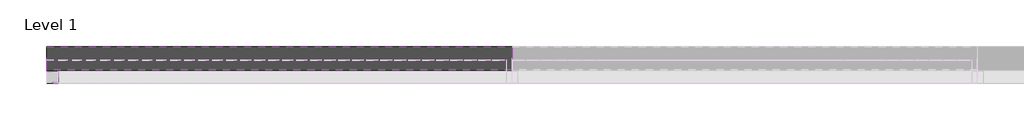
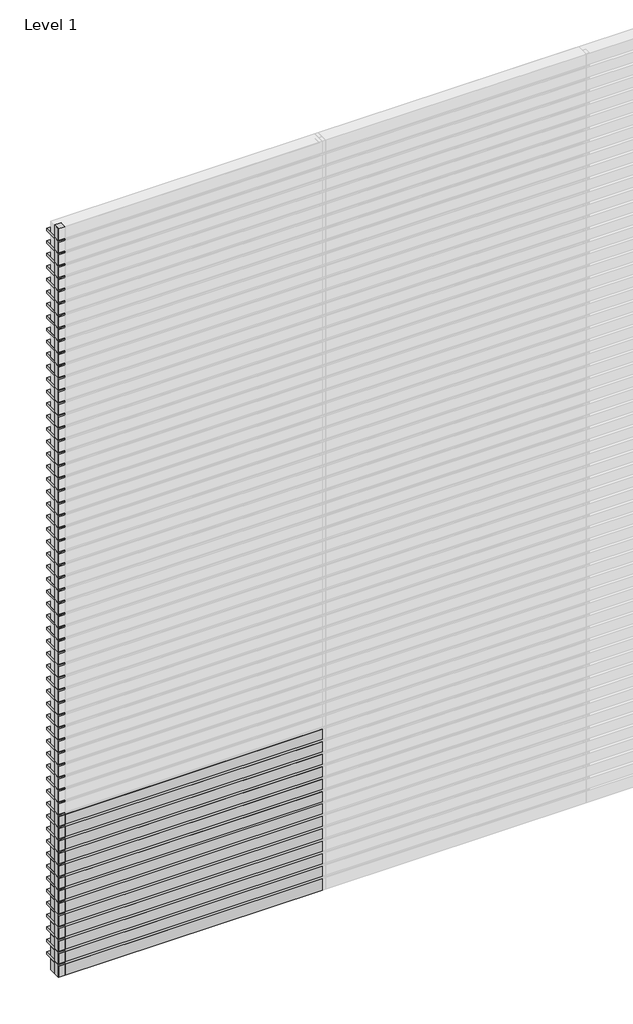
# One storey, part 1 of 6: 119 members, 13 plates.
"""IFC4 building model written with IfcOpenShell, lengths in millimetres."""

from ifc_helpers import new_model, si_unit, origin, place, context, project, spatial, transform, mapped, element, save
from components import rectangular_mullion_30cdfca6, rectangular_mullion_cddbc660, empty_system_panel_empty_51cbbd14, empty_system_panel_empty_86242385

model = new_model("IFC4")

# Units and contexts
model_context = context("Model", 3, world=origin())
ifc_project = project(units=[si_unit("LENGTHUNIT", "METRE", prefix="MILLI")], contexts=[model_context])

# Site, building, storey
site = spatial("IfcSite", under=ifc_project)
building = spatial("IfcBuilding", under=site)
storey = spatial("IfcBuildingStorey", under=building, Name="Level 1", Elevation=0.0)

# Members
placement = place(None, origin())
rectangular_mullion_shape = rectangular_mullion_30cdfca6(model_context)
element("IfcMember", 1, ObjectType="Rectangular Mullion : RSen_21_CWM_blade - cubic 100 - 0°_gen_duco projects", at=placement, inside=storey, context=model_context, shape_type="MappedRepresentation", body=[
    mapped(rectangular_mullion_shape, transform((0.0, 3000.0, 100.0), x_axis=(0.0, 0.0, 1.0), y_axis=(0.0, 1.0, 0.0), z_axis=(-1.0, 0.0, 0.0))),
])
element("IfcMember", 2, ObjectType="Rectangular Mullion : RSen_21_CWM_blade - cubic 100 - 0°_gen_duco projects", at=placement, inside=storey, context=model_context, shape_type="MappedRepresentation", body=[
    mapped(rectangular_mullion_shape, transform((0.0, 3000.0, 200.0), x_axis=(0.0, 0.0, 1.0), y_axis=(0.0, 1.0, 0.0), z_axis=(-1.0, 0.0, 0.0))),
])
element("IfcMember", 3, ObjectType="Rectangular Mullion : RSen_21_CWM_blade - cubic 100 - 0°_gen_duco projects", at=placement, inside=storey, context=model_context, shape_type="MappedRepresentation", body=[
    mapped(rectangular_mullion_shape, transform((0.0, 3000.0, 300.0), x_axis=(0.0, 0.0, 1.0), y_axis=(0.0, 1.0, 0.0), z_axis=(-1.0, 0.0, 0.0))),
])
element("IfcMember", 4, ObjectType="Rectangular Mullion : RSen_21_CWM_blade - cubic 100 - 0°_gen_duco projects", at=placement, inside=storey, context=model_context, shape_type="MappedRepresentation", body=[
    mapped(rectangular_mullion_shape, transform((0.0, 3000.0, 400.0), x_axis=(0.0, 0.0, 1.0), y_axis=(0.0, 1.0, 0.0), z_axis=(-1.0, 0.0, 0.0))),
])
element("IfcMember", 5, ObjectType="Rectangular Mullion : RSen_21_CWM_blade - cubic 100 - 0°_gen_duco projects", at=placement, inside=storey, context=model_context, shape_type="MappedRepresentation", body=[
    mapped(rectangular_mullion_shape, transform((0.0, 3000.0, 500.0), x_axis=(0.0, 0.0, 1.0), y_axis=(0.0, 1.0, 0.0), z_axis=(-1.0, 0.0, 0.0))),
])
element("IfcMember", 6, ObjectType="Rectangular Mullion : RSen_21_CWM_blade - cubic 100 - 0°_gen_duco projects", at=placement, inside=storey, context=model_context, shape_type="MappedRepresentation", body=[
    mapped(rectangular_mullion_shape, transform((0.0, 3000.0, 600.0), x_axis=(0.0, 0.0, 1.0), y_axis=(0.0, 1.0, 0.0), z_axis=(-1.0, 0.0, 0.0))),
])
element("IfcMember", 7, ObjectType="Rectangular Mullion : RSen_21_CWM_blade - cubic 100 - 0°_gen_duco projects", at=placement, inside=storey, context=model_context, shape_type="MappedRepresentation", body=[
    mapped(rectangular_mullion_shape, transform((0.0, 3000.0, 700.0), x_axis=(0.0, 0.0, 1.0), y_axis=(0.0, 1.0, 0.0), z_axis=(-1.0, 0.0, 0.0))),
])
element("IfcMember", 8, ObjectType="Rectangular Mullion : RSen_21_CWM_blade - cubic 100 - 0°_gen_duco projects", at=placement, inside=storey, context=model_context, shape_type="MappedRepresentation", body=[
    mapped(rectangular_mullion_shape, transform((0.0, 3000.0, 800.0), x_axis=(0.0, 0.0, 1.0), y_axis=(0.0, 1.0, 0.0), z_axis=(-1.0, 0.0, 0.0))),
])
element("IfcMember", 9, ObjectType="Rectangular Mullion : RSen_21_CWM_blade - cubic 100 - 0°_gen_duco projects", at=placement, inside=storey, context=model_context, shape_type="MappedRepresentation", body=[
    mapped(rectangular_mullion_shape, transform((0.0, 3000.0, 900.0), x_axis=(0.0, 0.0, 1.0), y_axis=(0.0, 1.0, 0.0), z_axis=(-1.0, 0.0, 0.0))),
])
element("IfcMember", 10, ObjectType="Rectangular Mullion : RSen_21_CWM_blade - cubic 100 - 0°_gen_duco projects", at=placement, inside=storey, context=model_context, shape_type="MappedRepresentation", body=[
    mapped(rectangular_mullion_shape, transform((0.0, 3000.0, 1000.0), x_axis=(0.0, 0.0, 1.0), y_axis=(0.0, 1.0, 0.0), z_axis=(-1.0, 0.0, 0.0))),
])
element("IfcMember", 11, ObjectType="Rectangular Mullion : RSen_21_CWM_blade - cubic 100 - 0°_gen_duco projects", at=placement, inside=storey, context=model_context, shape_type="MappedRepresentation", body=[
    mapped(rectangular_mullion_shape, transform((0.0, 3000.0, 1100.0), x_axis=(0.0, 0.0, 1.0), y_axis=(0.0, 1.0, 0.0), z_axis=(-1.0, 0.0, 0.0))),
])
element("IfcMember", 12, ObjectType="Rectangular Mullion : RSen_21_CWM_blade - cubic 100 - 0°_gen_duco projects", at=placement, inside=storey, context=model_context, shape_type="MappedRepresentation", body=[
    mapped(rectangular_mullion_shape, transform((0.0, 3000.0, 1200.0), x_axis=(0.0, 0.0, 1.0), y_axis=(0.0, 1.0, 0.0), z_axis=(-1.0, 0.0, 0.0))),
])
element("IfcMember", 13, ObjectType="Rectangular Mullion : RSen_21_CWM_blade - cubic 100 - 0°_gen_duco projects", at=placement, inside=storey, context=model_context, shape_type="MappedRepresentation", body=[
    mapped(rectangular_mullion_shape, transform((0.0, 3000.0, 1300.0), x_axis=(0.0, 0.0, 1.0), y_axis=(0.0, 1.0, 0.0), z_axis=(-1.0, 0.0, 0.0))),
])
element("IfcMember", 14, ObjectType="Rectangular Mullion : RSen_21_CWM_blade - cubic 100 - 0°_gen_duco projects", at=placement, inside=storey, context=model_context, shape_type="MappedRepresentation", body=[
    mapped(rectangular_mullion_shape, transform((0.0, 3000.0, 1400.0), x_axis=(0.0, 0.0, 1.0), y_axis=(0.0, 1.0, 0.0), z_axis=(-1.0, 0.0, 0.0))),
])
element("IfcMember", 15, ObjectType="Rectangular Mullion : RSen_21_CWM_blade - cubic 100 - 0°_gen_duco projects", at=placement, inside=storey, context=model_context, shape_type="MappedRepresentation", body=[
    mapped(rectangular_mullion_shape, transform((0.0, 3000.0, 1500.0), x_axis=(0.0, 0.0, 1.0), y_axis=(0.0, 1.0, 0.0), z_axis=(-1.0, 0.0, 0.0))),
])
element("IfcMember", 16, ObjectType="Rectangular Mullion : RSen_21_CWM_blade - cubic 100 - 0°_gen_duco projects", at=placement, inside=storey, context=model_context, shape_type="MappedRepresentation", body=[
    mapped(rectangular_mullion_shape, transform((0.0, 3000.0, 1600.0), x_axis=(0.0, 0.0, 1.0), y_axis=(0.0, 1.0, 0.0), z_axis=(-1.0, 0.0, 0.0))),
])
element("IfcMember", 17, ObjectType="Rectangular Mullion : RSen_21_CWM_blade - cubic 100 - 0°_gen_duco projects", at=placement, inside=storey, context=model_context, shape_type="MappedRepresentation", body=[
    mapped(rectangular_mullion_shape, transform((0.0, 3000.0, 1700.0), x_axis=(0.0, 0.0, 1.0), y_axis=(0.0, 1.0, 0.0), z_axis=(-1.0, 0.0, 0.0))),
])
element("IfcMember", 18, ObjectType="Rectangular Mullion : RSen_21_CWM_blade - cubic 100 - 0°_gen_duco projects", at=placement, inside=storey, context=model_context, shape_type="MappedRepresentation", body=[
    mapped(rectangular_mullion_shape, transform((0.0, 3000.0, 1800.0), x_axis=(0.0, 0.0, 1.0), y_axis=(0.0, 1.0, 0.0), z_axis=(-1.0, 0.0, 0.0))),
])
element("IfcMember", 19, ObjectType="Rectangular Mullion : RSen_21_CWM_blade - cubic 100 - 0°_gen_duco projects", at=placement, inside=storey, context=model_context, shape_type="MappedRepresentation", body=[
    mapped(rectangular_mullion_shape, transform((0.0, 3000.0, 1900.0), x_axis=(0.0, 0.0, 1.0), y_axis=(0.0, 1.0, 0.0), z_axis=(-1.0, 0.0, 0.0))),
])
element("IfcMember", 20, ObjectType="Rectangular Mullion : RSen_21_CWM_blade - cubic 100 - 0°_gen_duco projects", at=placement, inside=storey, context=model_context, shape_type="MappedRepresentation", body=[
    mapped(rectangular_mullion_shape, transform((0.0, 3000.0, 2000.0), x_axis=(0.0, 0.0, 1.0), y_axis=(0.0, 1.0, 0.0), z_axis=(-1.0, 0.0, 0.0))),
])
element("IfcMember", 21, ObjectType="Rectangular Mullion : RSen_21_CWM_blade - cubic 100 - 0°_gen_duco projects", at=placement, inside=storey, context=model_context, shape_type="MappedRepresentation", body=[
    mapped(rectangular_mullion_shape, transform((0.0, 3000.0, 2100.0), x_axis=(0.0, 0.0, 1.0), y_axis=(0.0, 1.0, 0.0), z_axis=(-1.0, 0.0, 0.0))),
])
element("IfcMember", 22, ObjectType="Rectangular Mullion : RSen_21_CWM_blade - cubic 100 - 0°_gen_duco projects", at=placement, inside=storey, context=model_context, shape_type="MappedRepresentation", body=[
    mapped(rectangular_mullion_shape, transform((0.0, 3000.0, 2200.0), x_axis=(0.0, 0.0, 1.0), y_axis=(0.0, 1.0, 0.0), z_axis=(-1.0, 0.0, 0.0))),
])
element("IfcMember", 23, ObjectType="Rectangular Mullion : RSen_21_CWM_blade - cubic 100 - 0°_gen_duco projects", at=placement, inside=storey, context=model_context, shape_type="MappedRepresentation", body=[
    mapped(rectangular_mullion_shape, transform((0.0, 3000.0, 2300.0), x_axis=(0.0, 0.0, 1.0), y_axis=(0.0, 1.0, 0.0), z_axis=(-1.0, 0.0, 0.0))),
])
element("IfcMember", 24, ObjectType="Rectangular Mullion : RSen_21_CWM_blade - cubic 100 - 0°_gen_duco projects", at=placement, inside=storey, context=model_context, shape_type="MappedRepresentation", body=[
    mapped(rectangular_mullion_shape, transform((0.0, 3000.0, 2400.0), x_axis=(0.0, 0.0, 1.0), y_axis=(0.0, 1.0, 0.0), z_axis=(-1.0, 0.0, 0.0))),
])
element("IfcMember", 25, ObjectType="Rectangular Mullion : RSen_21_CWM_blade - cubic 100 - 0°_gen_duco projects", at=placement, inside=storey, context=model_context, shape_type="MappedRepresentation", body=[
    mapped(rectangular_mullion_shape, transform((0.0, 3000.0, 2500.0), x_axis=(0.0, 0.0, 1.0), y_axis=(0.0, 1.0, 0.0), z_axis=(-1.0, 0.0, 0.0))),
])
element("IfcMember", 26, ObjectType="Rectangular Mullion : RSen_21_CWM_blade - cubic 100 - 0°_gen_duco projects", at=placement, inside=storey, context=model_context, shape_type="MappedRepresentation", body=[
    mapped(rectangular_mullion_shape, transform((0.0, 3000.0, 2600.0), x_axis=(0.0, 0.0, 1.0), y_axis=(0.0, 1.0, 0.0), z_axis=(-1.0, 0.0, 0.0))),
])
element("IfcMember", 27, ObjectType="Rectangular Mullion : RSen_21_CWM_blade - cubic 100 - 0°_gen_duco projects", at=placement, inside=storey, context=model_context, shape_type="MappedRepresentation", body=[
    mapped(rectangular_mullion_shape, transform((0.0, 3000.0, 2700.0), x_axis=(0.0, 0.0, 1.0), y_axis=(0.0, 1.0, 0.0), z_axis=(-1.0, 0.0, 0.0))),
])
element("IfcMember", 28, ObjectType="Rectangular Mullion : RSen_21_CWM_blade - cubic 100 - 0°_gen_duco projects", at=placement, inside=storey, context=model_context, shape_type="MappedRepresentation", body=[
    mapped(rectangular_mullion_shape, transform((0.0, 3000.0, 2800.0), x_axis=(0.0, 0.0, 1.0), y_axis=(0.0, 1.0, 0.0), z_axis=(-1.0, 0.0, 0.0))),
])
element("IfcMember", 29, ObjectType="Rectangular Mullion : RSen_21_CWM_blade - cubic 100 - 0°_gen_duco projects", at=placement, inside=storey, context=model_context, shape_type="MappedRepresentation", body=[
    mapped(rectangular_mullion_shape, transform((0.0, 3000.0, 2900.0), x_axis=(0.0, 0.0, 1.0), y_axis=(0.0, 1.0, 0.0), z_axis=(-1.0, 0.0, 0.0))),
])
element("IfcMember", 30, ObjectType="Rectangular Mullion : RSen_21_CWM_blade - cubic 100 - 0°_gen_duco projects", at=placement, inside=storey, context=model_context, shape_type="MappedRepresentation", body=[
    mapped(rectangular_mullion_shape, transform((0.0, 3000.0, 3000.0), x_axis=(0.0, 0.0, 1.0), y_axis=(0.0, 1.0, 0.0), z_axis=(-1.0, 0.0, 0.0))),
])
element("IfcMember", 31, ObjectType="Rectangular Mullion : RSen_21_CWM_blade - cubic 100 - 0°_gen_duco projects", at=placement, inside=storey, context=model_context, shape_type="MappedRepresentation", body=[
    mapped(rectangular_mullion_shape, transform((0.0, 3000.0, 3100.0), x_axis=(0.0, 0.0, 1.0), y_axis=(0.0, 1.0, 0.0), z_axis=(-1.0, 0.0, 0.0))),
])
element("IfcMember", 32, ObjectType="Rectangular Mullion : RSen_21_CWM_blade - cubic 100 - 0°_gen_duco projects", at=placement, inside=storey, context=model_context, shape_type="MappedRepresentation", body=[
    mapped(rectangular_mullion_shape, transform((0.0, 3000.0, 3200.0), x_axis=(0.0, 0.0, 1.0), y_axis=(0.0, 1.0, 0.0), z_axis=(-1.0, 0.0, 0.0))),
])
element("IfcMember", 33, ObjectType="Rectangular Mullion : RSen_21_CWM_blade - cubic 100 - 0°_gen_duco projects", at=placement, inside=storey, context=model_context, shape_type="MappedRepresentation", body=[
    mapped(rectangular_mullion_shape, transform((0.0, 3000.0, 3300.0), x_axis=(0.0, 0.0, 1.0), y_axis=(0.0, 1.0, 0.0), z_axis=(-1.0, 0.0, 0.0))),
])
element("IfcMember", 34, ObjectType="Rectangular Mullion : RSen_21_CWM_blade - cubic 100 - 0°_gen_duco projects", at=placement, inside=storey, context=model_context, shape_type="MappedRepresentation", body=[
    mapped(rectangular_mullion_shape, transform((0.0, 3000.0, 3400.0), x_axis=(0.0, 0.0, 1.0), y_axis=(0.0, 1.0, 0.0), z_axis=(-1.0, 0.0, 0.0))),
])
element("IfcMember", 35, ObjectType="Rectangular Mullion : RSen_21_CWM_blade - cubic 100 - 0°_gen_duco projects", at=placement, inside=storey, context=model_context, shape_type="MappedRepresentation", body=[
    mapped(rectangular_mullion_shape, transform((0.0, 3000.0, 3500.0), x_axis=(0.0, 0.0, 1.0), y_axis=(0.0, 1.0, 0.0), z_axis=(-1.0, 0.0, 0.0))),
])
element("IfcMember", 36, ObjectType="Rectangular Mullion : RSen_21_CWM_blade - cubic 100 - 0°_gen_duco projects", at=placement, inside=storey, context=model_context, shape_type="MappedRepresentation", body=[
    mapped(rectangular_mullion_shape, transform((0.0, 3000.0, 3600.0), x_axis=(0.0, 0.0, 1.0), y_axis=(0.0, 1.0, 0.0), z_axis=(-1.0, 0.0, 0.0))),
])
element("IfcMember", 37, ObjectType="Rectangular Mullion : RSen_21_CWM_blade - cubic 100 - 0°_gen_duco projects", at=placement, inside=storey, context=model_context, shape_type="MappedRepresentation", body=[
    mapped(rectangular_mullion_shape, transform((0.0, 3000.0, 3700.0), x_axis=(0.0, 0.0, 1.0), y_axis=(0.0, 1.0, 0.0), z_axis=(-1.0, 0.0, 0.0))),
])
element("IfcMember", 38, ObjectType="Rectangular Mullion : RSen_21_CWM_blade - cubic 100 - 0°_gen_duco projects", at=placement, inside=storey, context=model_context, shape_type="MappedRepresentation", body=[
    mapped(rectangular_mullion_shape, transform((0.0, 3000.0, 3800.0), x_axis=(0.0, 0.0, 1.0), y_axis=(0.0, 1.0, 0.0), z_axis=(-1.0, 0.0, 0.0))),
])
element("IfcMember", 39, ObjectType="Rectangular Mullion : RSen_21_CWM_blade - cubic 100 - 0°_gen_duco projects", at=placement, inside=storey, context=model_context, shape_type="MappedRepresentation", body=[
    mapped(rectangular_mullion_shape, transform((0.0, 3000.0, 3900.0), x_axis=(0.0, 0.0, 1.0), y_axis=(0.0, 1.0, 0.0), z_axis=(-1.0, 0.0, 0.0))),
])
element("IfcMember", 40, ObjectType="Rectangular Mullion : RSen_21_CWM_blade - cubic 100 - 0°_gen_duco projects", at=placement, inside=storey, context=model_context, shape_type="MappedRepresentation", body=[
    mapped(rectangular_mullion_shape, transform((0.0, 3000.0, 4000.0), x_axis=(0.0, 0.0, 1.0), y_axis=(0.0, 1.0, 0.0), z_axis=(-1.0, 0.0, 0.0))),
])
element("IfcMember", 41, ObjectType="Rectangular Mullion : RSen_21_CWM_blade - cubic 100 - 0°_gen_duco projects", at=placement, inside=storey, context=model_context, shape_type="MappedRepresentation", body=[
    mapped(rectangular_mullion_shape, transform((0.0, 3000.0, 4100.0), x_axis=(0.0, 0.0, 1.0), y_axis=(0.0, 1.0, 0.0), z_axis=(-1.0, 0.0, 0.0))),
])
element("IfcMember", 42, ObjectType="Rectangular Mullion : RSen_21_CWM_blade - cubic 100 - 0°_gen_duco projects", at=placement, inside=storey, context=model_context, shape_type="MappedRepresentation", body=[
    mapped(rectangular_mullion_shape, transform((0.0, 3000.0, 4200.0), x_axis=(0.0, 0.0, 1.0), y_axis=(0.0, 1.0, 0.0), z_axis=(-1.0, 0.0, 0.0))),
])
element("IfcMember", 43, ObjectType="Rectangular Mullion : RSen_21_CWM_blade - cubic 100 - 0°_gen_duco projects", at=placement, inside=storey, context=model_context, shape_type="MappedRepresentation", body=[
    mapped(rectangular_mullion_shape, transform((0.0, 3000.0, 4300.0), x_axis=(0.0, 0.0, 1.0), y_axis=(0.0, 1.0, 0.0), z_axis=(-1.0, 0.0, 0.0))),
])
element("IfcMember", 44, ObjectType="Rectangular Mullion : RSen_21_CWM_blade - cubic 100 - 0°_gen_duco projects", at=placement, inside=storey, context=model_context, shape_type="MappedRepresentation", body=[
    mapped(rectangular_mullion_shape, transform((0.0, 3000.0, 4400.0), x_axis=(0.0, 0.0, 1.0), y_axis=(0.0, 1.0, 0.0), z_axis=(-1.0, 0.0, 0.0))),
])
element("IfcMember", 45, ObjectType="Rectangular Mullion : RSen_21_CWM_blade - cubic 100 - 0°_gen_duco projects", at=placement, inside=storey, context=model_context, shape_type="MappedRepresentation", body=[
    mapped(rectangular_mullion_shape, transform((0.0, 3000.0, 4500.0), x_axis=(0.0, 0.0, 1.0), y_axis=(0.0, 1.0, 0.0), z_axis=(-1.0, 0.0, 0.0))),
])
element("IfcMember", 46, ObjectType="Rectangular Mullion : RSen_21_CWM_blade - cubic 100 - 0°_gen_duco projects", at=placement, inside=storey, context=model_context, shape_type="MappedRepresentation", body=[
    mapped(rectangular_mullion_shape, transform((0.0, 3000.0, 4600.0), x_axis=(0.0, 0.0, 1.0), y_axis=(0.0, 1.0, 0.0), z_axis=(-1.0, 0.0, 0.0))),
])
element("IfcMember", 47, ObjectType="Rectangular Mullion : RSen_21_CWM_blade - cubic 100 - 0°_gen_duco projects", at=placement, inside=storey, context=model_context, shape_type="MappedRepresentation", body=[
    mapped(rectangular_mullion_shape, transform((0.0, 3000.0, 4700.0), x_axis=(0.0, 0.0, 1.0), y_axis=(0.0, 1.0, 0.0), z_axis=(-1.0, 0.0, 0.0))),
])
element("IfcMember", 48, ObjectType="Rectangular Mullion : RSen_21_CWM_blade - cubic 100 - 0°_gen_duco projects", at=placement, inside=storey, context=model_context, shape_type="MappedRepresentation", body=[
    mapped(rectangular_mullion_shape, transform((0.0, 3000.0, 4800.0), x_axis=(0.0, 0.0, 1.0), y_axis=(0.0, 1.0, 0.0), z_axis=(-1.0, 0.0, 0.0))),
])
element("IfcMember", 49, ObjectType="Rectangular Mullion : RSen_21_CWM_blade - cubic 100 - 0°_gen_duco projects", at=placement, inside=storey, context=model_context, shape_type="MappedRepresentation", body=[
    mapped(rectangular_mullion_shape, transform((0.0, 3000.0, 4900.0), x_axis=(0.0, 0.0, 1.0), y_axis=(0.0, 1.0, 0.0), z_axis=(-1.0, 0.0, 0.0))),
])
element("IfcMember", 50, ObjectType="Rectangular Mullion : RSen_21_CWM_blade - cubic 100 - 0°_gen_duco projects", at=placement, inside=storey, context=model_context, shape_type="MappedRepresentation", body=[
    mapped(rectangular_mullion_shape, transform((0.0, 3000.0, 5000.0), x_axis=(0.0, 0.0, 1.0), y_axis=(0.0, 1.0, 0.0), z_axis=(-1.0, 0.0, 0.0))),
])
element("IfcMember", 51, ObjectType="Rectangular Mullion : RSen_21_CWM_blade - cubic 100 - 0°_gen_duco projects", at=placement, inside=storey, context=model_context, shape_type="MappedRepresentation", body=[
    mapped(rectangular_mullion_shape, transform((0.0, 3000.0, 5100.0), x_axis=(0.0, 0.0, 1.0), y_axis=(0.0, 1.0, 0.0), z_axis=(-1.0, 0.0, 0.0))),
])
element("IfcMember", 52, ObjectType="Rectangular Mullion : RSen_21_CWM_blade - cubic 100 - 0°_gen_duco projects", at=placement, inside=storey, context=model_context, shape_type="MappedRepresentation", body=[
    mapped(rectangular_mullion_shape, transform((0.0, 3000.0, 5200.0), x_axis=(0.0, 0.0, 1.0), y_axis=(0.0, 1.0, 0.0), z_axis=(-1.0, 0.0, 0.0))),
])
element("IfcMember", 53, ObjectType="Rectangular Mullion : RSen_21_CWM_blade - cubic 100 - 0°_gen_duco projects", at=placement, inside=storey, context=model_context, shape_type="MappedRepresentation", body=[
    mapped(rectangular_mullion_shape, transform((0.0, 3000.0, 5300.0), x_axis=(0.0, 0.0, 1.0), y_axis=(0.0, 1.0, 0.0), z_axis=(-1.0, 0.0, 0.0))),
])
element("IfcMember", 54, ObjectType="Rectangular Mullion : RSen_21_CWM_blade - cubic 100 - 0°_gen_duco projects", at=placement, inside=storey, context=model_context, shape_type="MappedRepresentation", body=[
    mapped(rectangular_mullion_shape, transform((0.0, 3000.0, 5400.0), x_axis=(0.0, 0.0, 1.0), y_axis=(0.0, 1.0, 0.0), z_axis=(-1.0, 0.0, 0.0))),
])
element("IfcMember", 55, ObjectType="Rectangular Mullion : RSen_21_CWM_blade - cubic 100 - 0°_gen_duco projects", at=placement, inside=storey, context=model_context, shape_type="MappedRepresentation", body=[
    mapped(rectangular_mullion_shape, transform((0.0, 3000.0, 5500.0), x_axis=(0.0, 0.0, 1.0), y_axis=(0.0, 1.0, 0.0), z_axis=(-1.0, 0.0, 0.0))),
])
element("IfcMember", 56, ObjectType="Rectangular Mullion : RSen_21_CWM_blade - cubic 100 - 0°_gen_duco projects", at=placement, inside=storey, context=model_context, shape_type="MappedRepresentation", body=[
    mapped(rectangular_mullion_shape, transform((0.0, 3000.0, 5600.0), x_axis=(0.0, 0.0, 1.0), y_axis=(0.0, 1.0, 0.0), z_axis=(-1.0, 0.0, 0.0))),
])
element("IfcMember", 57, ObjectType="Rectangular Mullion : RSen_21_CWM_blade - cubic 100 - 0°_gen_duco projects", at=placement, inside=storey, context=model_context, shape_type="MappedRepresentation", body=[
    mapped(rectangular_mullion_shape, transform((0.0, 3000.0, 5700.0), x_axis=(0.0, 0.0, 1.0), y_axis=(0.0, 1.0, 0.0), z_axis=(-1.0, 0.0, 0.0))),
])
element("IfcMember", 58, ObjectType="Rectangular Mullion : RSen_21_CWM_blade - cubic 100 - 0°_gen_duco projects", at=placement, inside=storey, context=model_context, shape_type="MappedRepresentation", body=[
    mapped(rectangular_mullion_shape, transform((0.0, 3000.0, 5800.0), x_axis=(0.0, 0.0, 1.0), y_axis=(0.0, 1.0, 0.0), z_axis=(-1.0, 0.0, 0.0))),
])
element("IfcMember", 59, ObjectType="Rectangular Mullion : RSen_21_CWM_blade - cubic 100 - 0°_gen_duco projects", at=placement, inside=storey, context=model_context, shape_type="MappedRepresentation", body=[
    mapped(rectangular_mullion_shape, transform((0.0, 3000.0, 5900.0), x_axis=(0.0, 0.0, 1.0), y_axis=(0.0, 1.0, 0.0), z_axis=(-1.0, 0.0, 0.0))),
])
rectangular_mullion_2_shape = rectangular_mullion_cddbc660(model_context)
element("IfcMember", 60, ObjectType="Rectangular Mullion : RSen_21_CWM_support profile 50x50 - left_gen_duco projects", at=placement, inside=storey, context=model_context, shape_type="MappedRepresentation", body=[
    mapped(rectangular_mullion_2_shape, transform((0.0, 3000.0, 0.0), x_axis=(-1.0, 0.0, 0.0), y_axis=(0.0, 1.0, 0.0), z_axis=(0.0, 0.0, -1.0))),
])
element("IfcMember", 61, ObjectType="Rectangular Mullion : RSen_21_CWM_support profile 50x50 - left_gen_duco projects", at=placement, inside=storey, context=model_context, shape_type="MappedRepresentation", body=[
    mapped(rectangular_mullion_2_shape, transform((0.0, 3000.0, 100.0), x_axis=(-1.0, 0.0, 0.0), y_axis=(0.0, 1.0, 0.0), z_axis=(0.0, 0.0, -1.0))),
])
element("IfcMember", 62, ObjectType="Rectangular Mullion : RSen_21_CWM_support profile 50x50 - left_gen_duco projects", at=placement, inside=storey, context=model_context, shape_type="MappedRepresentation", body=[
    mapped(rectangular_mullion_2_shape, transform((0.0, 3000.0, 200.0), x_axis=(-1.0, 0.0, 0.0), y_axis=(0.0, 1.0, 0.0), z_axis=(0.0, 0.0, -1.0))),
])
element("IfcMember", 63, ObjectType="Rectangular Mullion : RSen_21_CWM_support profile 50x50 - left_gen_duco projects", at=placement, inside=storey, context=model_context, shape_type="MappedRepresentation", body=[
    mapped(rectangular_mullion_2_shape, transform((0.0, 3000.0, 300.0), x_axis=(-1.0, 0.0, 0.0), y_axis=(0.0, 1.0, 0.0), z_axis=(0.0, 0.0, -1.0))),
])
element("IfcMember", 64, ObjectType="Rectangular Mullion : RSen_21_CWM_support profile 50x50 - left_gen_duco projects", at=placement, inside=storey, context=model_context, shape_type="MappedRepresentation", body=[
    mapped(rectangular_mullion_2_shape, transform((0.0, 3000.0, 400.0), x_axis=(-1.0, 0.0, 0.0), y_axis=(0.0, 1.0, 0.0), z_axis=(0.0, 0.0, -1.0))),
])
element("IfcMember", 65, ObjectType="Rectangular Mullion : RSen_21_CWM_support profile 50x50 - left_gen_duco projects", at=placement, inside=storey, context=model_context, shape_type="MappedRepresentation", body=[
    mapped(rectangular_mullion_2_shape, transform((0.0, 3000.0, 500.0), x_axis=(-1.0, 0.0, 0.0), y_axis=(0.0, 1.0, 0.0), z_axis=(0.0, 0.0, -1.0))),
])
element("IfcMember", 66, ObjectType="Rectangular Mullion : RSen_21_CWM_support profile 50x50 - left_gen_duco projects", at=placement, inside=storey, context=model_context, shape_type="MappedRepresentation", body=[
    mapped(rectangular_mullion_2_shape, transform((0.0, 3000.0, 600.0), x_axis=(-1.0, 0.0, 0.0), y_axis=(0.0, 1.0, 0.0), z_axis=(0.0, 0.0, -1.0))),
])
element("IfcMember", 67, ObjectType="Rectangular Mullion : RSen_21_CWM_support profile 50x50 - left_gen_duco projects", at=placement, inside=storey, context=model_context, shape_type="MappedRepresentation", body=[
    mapped(rectangular_mullion_2_shape, transform((0.0, 3000.0, 700.0), x_axis=(-1.0, 0.0, 0.0), y_axis=(0.0, 1.0, 0.0), z_axis=(0.0, 0.0, -1.0))),
])
element("IfcMember", 68, ObjectType="Rectangular Mullion : RSen_21_CWM_support profile 50x50 - left_gen_duco projects", at=placement, inside=storey, context=model_context, shape_type="MappedRepresentation", body=[
    mapped(rectangular_mullion_2_shape, transform((0.0, 3000.0, 800.0), x_axis=(-1.0, 0.0, 0.0), y_axis=(0.0, 1.0, 0.0), z_axis=(0.0, 0.0, -1.0))),
])
element("IfcMember", 69, ObjectType="Rectangular Mullion : RSen_21_CWM_support profile 50x50 - left_gen_duco projects", at=placement, inside=storey, context=model_context, shape_type="MappedRepresentation", body=[
    mapped(rectangular_mullion_2_shape, transform((0.0, 3000.0, 900.0), x_axis=(-1.0, 0.0, 0.0), y_axis=(0.0, 1.0, 0.0), z_axis=(0.0, 0.0, -1.0))),
])
element("IfcMember", 70, ObjectType="Rectangular Mullion : RSen_21_CWM_support profile 50x50 - left_gen_duco projects", at=placement, inside=storey, context=model_context, shape_type="MappedRepresentation", body=[
    mapped(rectangular_mullion_2_shape, transform((0.0, 3000.0, 1000.0), x_axis=(-1.0, 0.0, 0.0), y_axis=(0.0, 1.0, 0.0), z_axis=(0.0, 0.0, -1.0))),
])
element("IfcMember", 71, ObjectType="Rectangular Mullion : RSen_21_CWM_support profile 50x50 - left_gen_duco projects", at=placement, inside=storey, context=model_context, shape_type="MappedRepresentation", body=[
    mapped(rectangular_mullion_2_shape, transform((0.0, 3000.0, 1100.0), x_axis=(-1.0, 0.0, 0.0), y_axis=(0.0, 1.0, 0.0), z_axis=(0.0, 0.0, -1.0))),
])
element("IfcMember", 72, ObjectType="Rectangular Mullion : RSen_21_CWM_support profile 50x50 - left_gen_duco projects", at=placement, inside=storey, context=model_context, shape_type="MappedRepresentation", body=[
    mapped(rectangular_mullion_2_shape, transform((0.0, 3000.0, 1200.0), x_axis=(-1.0, 0.0, 0.0), y_axis=(0.0, 1.0, 0.0), z_axis=(0.0, 0.0, -1.0))),
])
element("IfcMember", 73, ObjectType="Rectangular Mullion : RSen_21_CWM_support profile 50x50 - left_gen_duco projects", at=placement, inside=storey, context=model_context, shape_type="MappedRepresentation", body=[
    mapped(rectangular_mullion_2_shape, transform((0.0, 3000.0, 1300.0), x_axis=(-1.0, 0.0, 0.0), y_axis=(0.0, 1.0, 0.0), z_axis=(0.0, 0.0, -1.0))),
])
element("IfcMember", 74, ObjectType="Rectangular Mullion : RSen_21_CWM_support profile 50x50 - left_gen_duco projects", at=placement, inside=storey, context=model_context, shape_type="MappedRepresentation", body=[
    mapped(rectangular_mullion_2_shape, transform((0.0, 3000.0, 1400.0), x_axis=(-1.0, 0.0, 0.0), y_axis=(0.0, 1.0, 0.0), z_axis=(0.0, 0.0, -1.0))),
])
element("IfcMember", 75, ObjectType="Rectangular Mullion : RSen_21_CWM_support profile 50x50 - left_gen_duco projects", at=placement, inside=storey, context=model_context, shape_type="MappedRepresentation", body=[
    mapped(rectangular_mullion_2_shape, transform((0.0, 3000.0, 1500.0), x_axis=(-1.0, 0.0, 0.0), y_axis=(0.0, 1.0, 0.0), z_axis=(0.0, 0.0, -1.0))),
])
element("IfcMember", 76, ObjectType="Rectangular Mullion : RSen_21_CWM_support profile 50x50 - left_gen_duco projects", at=placement, inside=storey, context=model_context, shape_type="MappedRepresentation", body=[
    mapped(rectangular_mullion_2_shape, transform((0.0, 3000.0, 1600.0), x_axis=(-1.0, 0.0, 0.0), y_axis=(0.0, 1.0, 0.0), z_axis=(0.0, 0.0, -1.0))),
])
element("IfcMember", 77, ObjectType="Rectangular Mullion : RSen_21_CWM_support profile 50x50 - left_gen_duco projects", at=placement, inside=storey, context=model_context, shape_type="MappedRepresentation", body=[
    mapped(rectangular_mullion_2_shape, transform((0.0, 3000.0, 1700.0), x_axis=(-1.0, 0.0, 0.0), y_axis=(0.0, 1.0, 0.0), z_axis=(0.0, 0.0, -1.0))),
])
element("IfcMember", 78, ObjectType="Rectangular Mullion : RSen_21_CWM_support profile 50x50 - left_gen_duco projects", at=placement, inside=storey, context=model_context, shape_type="MappedRepresentation", body=[
    mapped(rectangular_mullion_2_shape, transform((0.0, 3000.0, 1800.0), x_axis=(-1.0, 0.0, 0.0), y_axis=(0.0, 1.0, 0.0), z_axis=(0.0, 0.0, -1.0))),
])
element("IfcMember", 79, ObjectType="Rectangular Mullion : RSen_21_CWM_support profile 50x50 - left_gen_duco projects", at=placement, inside=storey, context=model_context, shape_type="MappedRepresentation", body=[
    mapped(rectangular_mullion_2_shape, transform((0.0, 3000.0, 1900.0), x_axis=(-1.0, 0.0, 0.0), y_axis=(0.0, 1.0, 0.0), z_axis=(0.0, 0.0, -1.0))),
])
element("IfcMember", 80, ObjectType="Rectangular Mullion : RSen_21_CWM_support profile 50x50 - left_gen_duco projects", at=placement, inside=storey, context=model_context, shape_type="MappedRepresentation", body=[
    mapped(rectangular_mullion_2_shape, transform((0.0, 3000.0, 2000.0), x_axis=(-1.0, 0.0, 0.0), y_axis=(0.0, 1.0, 0.0), z_axis=(0.0, 0.0, -1.0))),
])
element("IfcMember", 81, ObjectType="Rectangular Mullion : RSen_21_CWM_support profile 50x50 - left_gen_duco projects", at=placement, inside=storey, context=model_context, shape_type="MappedRepresentation", body=[
    mapped(rectangular_mullion_2_shape, transform((0.0, 3000.0, 2100.0), x_axis=(-1.0, 0.0, 0.0), y_axis=(0.0, 1.0, 0.0), z_axis=(0.0, 0.0, -1.0))),
])
element("IfcMember", 82, ObjectType="Rectangular Mullion : RSen_21_CWM_support profile 50x50 - left_gen_duco projects", at=placement, inside=storey, context=model_context, shape_type="MappedRepresentation", body=[
    mapped(rectangular_mullion_2_shape, transform((0.0, 3000.0, 2200.0), x_axis=(-1.0, 0.0, 0.0), y_axis=(0.0, 1.0, 0.0), z_axis=(0.0, 0.0, -1.0))),
])
element("IfcMember", 83, ObjectType="Rectangular Mullion : RSen_21_CWM_support profile 50x50 - left_gen_duco projects", at=placement, inside=storey, context=model_context, shape_type="MappedRepresentation", body=[
    mapped(rectangular_mullion_2_shape, transform((0.0, 3000.0, 2300.0), x_axis=(-1.0, 0.0, 0.0), y_axis=(0.0, 1.0, 0.0), z_axis=(0.0, 0.0, -1.0))),
])
element("IfcMember", 84, ObjectType="Rectangular Mullion : RSen_21_CWM_support profile 50x50 - left_gen_duco projects", at=placement, inside=storey, context=model_context, shape_type="MappedRepresentation", body=[
    mapped(rectangular_mullion_2_shape, transform((0.0, 3000.0, 2400.0), x_axis=(-1.0, 0.0, 0.0), y_axis=(0.0, 1.0, 0.0), z_axis=(0.0, 0.0, -1.0))),
])
element("IfcMember", 85, ObjectType="Rectangular Mullion : RSen_21_CWM_support profile 50x50 - left_gen_duco projects", at=placement, inside=storey, context=model_context, shape_type="MappedRepresentation", body=[
    mapped(rectangular_mullion_2_shape, transform((0.0, 3000.0, 2500.0), x_axis=(-1.0, 0.0, 0.0), y_axis=(0.0, 1.0, 0.0), z_axis=(0.0, 0.0, -1.0))),
])
element("IfcMember", 86, ObjectType="Rectangular Mullion : RSen_21_CWM_support profile 50x50 - left_gen_duco projects", at=placement, inside=storey, context=model_context, shape_type="MappedRepresentation", body=[
    mapped(rectangular_mullion_2_shape, transform((0.0, 3000.0, 2600.0), x_axis=(-1.0, 0.0, 0.0), y_axis=(0.0, 1.0, 0.0), z_axis=(0.0, 0.0, -1.0))),
])
element("IfcMember", 87, ObjectType="Rectangular Mullion : RSen_21_CWM_support profile 50x50 - left_gen_duco projects", at=placement, inside=storey, context=model_context, shape_type="MappedRepresentation", body=[
    mapped(rectangular_mullion_2_shape, transform((0.0, 3000.0, 2700.0), x_axis=(-1.0, 0.0, 0.0), y_axis=(0.0, 1.0, 0.0), z_axis=(0.0, 0.0, -1.0))),
])
element("IfcMember", 88, ObjectType="Rectangular Mullion : RSen_21_CWM_support profile 50x50 - left_gen_duco projects", at=placement, inside=storey, context=model_context, shape_type="MappedRepresentation", body=[
    mapped(rectangular_mullion_2_shape, transform((0.0, 3000.0, 2800.0), x_axis=(-1.0, 0.0, 0.0), y_axis=(0.0, 1.0, 0.0), z_axis=(0.0, 0.0, -1.0))),
])
element("IfcMember", 89, ObjectType="Rectangular Mullion : RSen_21_CWM_support profile 50x50 - left_gen_duco projects", at=placement, inside=storey, context=model_context, shape_type="MappedRepresentation", body=[
    mapped(rectangular_mullion_2_shape, transform((0.0, 3000.0, 2900.0), x_axis=(-1.0, 0.0, 0.0), y_axis=(0.0, 1.0, 0.0), z_axis=(0.0, 0.0, -1.0))),
])
element("IfcMember", 90, ObjectType="Rectangular Mullion : RSen_21_CWM_support profile 50x50 - left_gen_duco projects", at=placement, inside=storey, context=model_context, shape_type="MappedRepresentation", body=[
    mapped(rectangular_mullion_2_shape, transform((0.0, 3000.0, 3000.0), x_axis=(-1.0, 0.0, 0.0), y_axis=(0.0, 1.0, 0.0), z_axis=(0.0, 0.0, -1.0))),
])
element("IfcMember", 91, ObjectType="Rectangular Mullion : RSen_21_CWM_support profile 50x50 - left_gen_duco projects", at=placement, inside=storey, context=model_context, shape_type="MappedRepresentation", body=[
    mapped(rectangular_mullion_2_shape, transform((0.0, 3000.0, 3100.0), x_axis=(-1.0, 0.0, 0.0), y_axis=(0.0, 1.0, 0.0), z_axis=(0.0, 0.0, -1.0))),
])
element("IfcMember", 92, ObjectType="Rectangular Mullion : RSen_21_CWM_support profile 50x50 - left_gen_duco projects", at=placement, inside=storey, context=model_context, shape_type="MappedRepresentation", body=[
    mapped(rectangular_mullion_2_shape, transform((0.0, 3000.0, 3200.0), x_axis=(-1.0, 0.0, 0.0), y_axis=(0.0, 1.0, 0.0), z_axis=(0.0, 0.0, -1.0))),
])
element("IfcMember", 93, ObjectType="Rectangular Mullion : RSen_21_CWM_support profile 50x50 - left_gen_duco projects", at=placement, inside=storey, context=model_context, shape_type="MappedRepresentation", body=[
    mapped(rectangular_mullion_2_shape, transform((0.0, 3000.0, 3300.0), x_axis=(-1.0, 0.0, 0.0), y_axis=(0.0, 1.0, 0.0), z_axis=(0.0, 0.0, -1.0))),
])
element("IfcMember", 94, ObjectType="Rectangular Mullion : RSen_21_CWM_support profile 50x50 - left_gen_duco projects", at=placement, inside=storey, context=model_context, shape_type="MappedRepresentation", body=[
    mapped(rectangular_mullion_2_shape, transform((0.0, 3000.0, 3400.0), x_axis=(-1.0, 0.0, 0.0), y_axis=(0.0, 1.0, 0.0), z_axis=(0.0, 0.0, -1.0))),
])
element("IfcMember", 95, ObjectType="Rectangular Mullion : RSen_21_CWM_support profile 50x50 - left_gen_duco projects", at=placement, inside=storey, context=model_context, shape_type="MappedRepresentation", body=[
    mapped(rectangular_mullion_2_shape, transform((0.0, 3000.0, 3500.0), x_axis=(-1.0, 0.0, 0.0), y_axis=(0.0, 1.0, 0.0), z_axis=(0.0, 0.0, -1.0))),
])
element("IfcMember", 96, ObjectType="Rectangular Mullion : RSen_21_CWM_support profile 50x50 - left_gen_duco projects", at=placement, inside=storey, context=model_context, shape_type="MappedRepresentation", body=[
    mapped(rectangular_mullion_2_shape, transform((0.0, 3000.0, 3600.0), x_axis=(-1.0, 0.0, 0.0), y_axis=(0.0, 1.0, 0.0), z_axis=(0.0, 0.0, -1.0))),
])
element("IfcMember", 97, ObjectType="Rectangular Mullion : RSen_21_CWM_support profile 50x50 - left_gen_duco projects", at=placement, inside=storey, context=model_context, shape_type="MappedRepresentation", body=[
    mapped(rectangular_mullion_2_shape, transform((0.0, 3000.0, 3700.0), x_axis=(-1.0, 0.0, 0.0), y_axis=(0.0, 1.0, 0.0), z_axis=(0.0, 0.0, -1.0))),
])
element("IfcMember", 98, ObjectType="Rectangular Mullion : RSen_21_CWM_support profile 50x50 - left_gen_duco projects", at=placement, inside=storey, context=model_context, shape_type="MappedRepresentation", body=[
    mapped(rectangular_mullion_2_shape, transform((0.0, 3000.0, 3800.0), x_axis=(-1.0, 0.0, 0.0), y_axis=(0.0, 1.0, 0.0), z_axis=(0.0, 0.0, -1.0))),
])
element("IfcMember", 99, ObjectType="Rectangular Mullion : RSen_21_CWM_support profile 50x50 - left_gen_duco projects", at=placement, inside=storey, context=model_context, shape_type="MappedRepresentation", body=[
    mapped(rectangular_mullion_2_shape, transform((0.0, 3000.0, 3900.0), x_axis=(-1.0, 0.0, 0.0), y_axis=(0.0, 1.0, 0.0), z_axis=(0.0, 0.0, -1.0))),
])
element("IfcMember", 100, ObjectType="Rectangular Mullion : RSen_21_CWM_support profile 50x50 - left_gen_duco projects", at=placement, inside=storey, context=model_context, shape_type="MappedRepresentation", body=[
    mapped(rectangular_mullion_2_shape, transform((0.0, 3000.0, 4000.0), x_axis=(-1.0, 0.0, 0.0), y_axis=(0.0, 1.0, 0.0), z_axis=(0.0, 0.0, -1.0))),
])
element("IfcMember", 101, ObjectType="Rectangular Mullion : RSen_21_CWM_support profile 50x50 - left_gen_duco projects", at=placement, inside=storey, context=model_context, shape_type="MappedRepresentation", body=[
    mapped(rectangular_mullion_2_shape, transform((0.0, 3000.0, 4100.0), x_axis=(-1.0, 0.0, 0.0), y_axis=(0.0, 1.0, 0.0), z_axis=(0.0, 0.0, -1.0))),
])
element("IfcMember", 102, ObjectType="Rectangular Mullion : RSen_21_CWM_support profile 50x50 - left_gen_duco projects", at=placement, inside=storey, context=model_context, shape_type="MappedRepresentation", body=[
    mapped(rectangular_mullion_2_shape, transform((0.0, 3000.0, 4200.0), x_axis=(-1.0, 0.0, 0.0), y_axis=(0.0, 1.0, 0.0), z_axis=(0.0, 0.0, -1.0))),
])
element("IfcMember", 103, ObjectType="Rectangular Mullion : RSen_21_CWM_support profile 50x50 - left_gen_duco projects", at=placement, inside=storey, context=model_context, shape_type="MappedRepresentation", body=[
    mapped(rectangular_mullion_2_shape, transform((0.0, 3000.0, 4300.0), x_axis=(-1.0, 0.0, 0.0), y_axis=(0.0, 1.0, 0.0), z_axis=(0.0, 0.0, -1.0))),
])
element("IfcMember", 104, ObjectType="Rectangular Mullion : RSen_21_CWM_support profile 50x50 - left_gen_duco projects", at=placement, inside=storey, context=model_context, shape_type="MappedRepresentation", body=[
    mapped(rectangular_mullion_2_shape, transform((0.0, 3000.0, 4400.0), x_axis=(-1.0, 0.0, 0.0), y_axis=(0.0, 1.0, 0.0), z_axis=(0.0, 0.0, -1.0))),
])
element("IfcMember", 105, ObjectType="Rectangular Mullion : RSen_21_CWM_support profile 50x50 - left_gen_duco projects", at=placement, inside=storey, context=model_context, shape_type="MappedRepresentation", body=[
    mapped(rectangular_mullion_2_shape, transform((0.0, 3000.0, 4500.0), x_axis=(-1.0, 0.0, 0.0), y_axis=(0.0, 1.0, 0.0), z_axis=(0.0, 0.0, -1.0))),
])
element("IfcMember", 106, ObjectType="Rectangular Mullion : RSen_21_CWM_support profile 50x50 - left_gen_duco projects", at=placement, inside=storey, context=model_context, shape_type="MappedRepresentation", body=[
    mapped(rectangular_mullion_2_shape, transform((0.0, 3000.0, 4600.0), x_axis=(-1.0, 0.0, 0.0), y_axis=(0.0, 1.0, 0.0), z_axis=(0.0, 0.0, -1.0))),
])
element("IfcMember", 107, ObjectType="Rectangular Mullion : RSen_21_CWM_support profile 50x50 - left_gen_duco projects", at=placement, inside=storey, context=model_context, shape_type="MappedRepresentation", body=[
    mapped(rectangular_mullion_2_shape, transform((0.0, 3000.0, 4700.0), x_axis=(-1.0, 0.0, 0.0), y_axis=(0.0, 1.0, 0.0), z_axis=(0.0, 0.0, -1.0))),
])
element("IfcMember", 108, ObjectType="Rectangular Mullion : RSen_21_CWM_support profile 50x50 - left_gen_duco projects", at=placement, inside=storey, context=model_context, shape_type="MappedRepresentation", body=[
    mapped(rectangular_mullion_2_shape, transform((0.0, 3000.0, 4800.0), x_axis=(-1.0, 0.0, 0.0), y_axis=(0.0, 1.0, 0.0), z_axis=(0.0, 0.0, -1.0))),
])
element("IfcMember", 109, ObjectType="Rectangular Mullion : RSen_21_CWM_support profile 50x50 - left_gen_duco projects", at=placement, inside=storey, context=model_context, shape_type="MappedRepresentation", body=[
    mapped(rectangular_mullion_2_shape, transform((0.0, 3000.0, 4900.0), x_axis=(-1.0, 0.0, 0.0), y_axis=(0.0, 1.0, 0.0), z_axis=(0.0, 0.0, -1.0))),
])
element("IfcMember", 110, ObjectType="Rectangular Mullion : RSen_21_CWM_support profile 50x50 - left_gen_duco projects", at=placement, inside=storey, context=model_context, shape_type="MappedRepresentation", body=[
    mapped(rectangular_mullion_2_shape, transform((0.0, 3000.0, 5000.0), x_axis=(-1.0, 0.0, 0.0), y_axis=(0.0, 1.0, 0.0), z_axis=(0.0, 0.0, -1.0))),
])
element("IfcMember", 111, ObjectType="Rectangular Mullion : RSen_21_CWM_support profile 50x50 - left_gen_duco projects", at=placement, inside=storey, context=model_context, shape_type="MappedRepresentation", body=[
    mapped(rectangular_mullion_2_shape, transform((0.0, 3000.0, 5100.0), x_axis=(-1.0, 0.0, 0.0), y_axis=(0.0, 1.0, 0.0), z_axis=(0.0, 0.0, -1.0))),
])
element("IfcMember", 112, ObjectType="Rectangular Mullion : RSen_21_CWM_support profile 50x50 - left_gen_duco projects", at=placement, inside=storey, context=model_context, shape_type="MappedRepresentation", body=[
    mapped(rectangular_mullion_2_shape, transform((0.0, 3000.0, 5200.0), x_axis=(-1.0, 0.0, 0.0), y_axis=(0.0, 1.0, 0.0), z_axis=(0.0, 0.0, -1.0))),
])
element("IfcMember", 113, ObjectType="Rectangular Mullion : RSen_21_CWM_support profile 50x50 - left_gen_duco projects", at=placement, inside=storey, context=model_context, shape_type="MappedRepresentation", body=[
    mapped(rectangular_mullion_2_shape, transform((0.0, 3000.0, 5300.0), x_axis=(-1.0, 0.0, 0.0), y_axis=(0.0, 1.0, 0.0), z_axis=(0.0, 0.0, -1.0))),
])
element("IfcMember", 114, ObjectType="Rectangular Mullion : RSen_21_CWM_support profile 50x50 - left_gen_duco projects", at=placement, inside=storey, context=model_context, shape_type="MappedRepresentation", body=[
    mapped(rectangular_mullion_2_shape, transform((0.0, 3000.0, 5400.0), x_axis=(-1.0, 0.0, 0.0), y_axis=(0.0, 1.0, 0.0), z_axis=(0.0, 0.0, -1.0))),
])
element("IfcMember", 115, ObjectType="Rectangular Mullion : RSen_21_CWM_support profile 50x50 - left_gen_duco projects", at=placement, inside=storey, context=model_context, shape_type="MappedRepresentation", body=[
    mapped(rectangular_mullion_2_shape, transform((0.0, 3000.0, 5500.0), x_axis=(-1.0, 0.0, 0.0), y_axis=(0.0, 1.0, 0.0), z_axis=(0.0, 0.0, -1.0))),
])
element("IfcMember", 116, ObjectType="Rectangular Mullion : RSen_21_CWM_support profile 50x50 - left_gen_duco projects", at=placement, inside=storey, context=model_context, shape_type="MappedRepresentation", body=[
    mapped(rectangular_mullion_2_shape, transform((0.0, 3000.0, 5600.0), x_axis=(-1.0, 0.0, 0.0), y_axis=(0.0, 1.0, 0.0), z_axis=(0.0, 0.0, -1.0))),
])
element("IfcMember", 117, ObjectType="Rectangular Mullion : RSen_21_CWM_support profile 50x50 - left_gen_duco projects", at=placement, inside=storey, context=model_context, shape_type="MappedRepresentation", body=[
    mapped(rectangular_mullion_2_shape, transform((0.0, 3000.0, 5700.0), x_axis=(-1.0, 0.0, 0.0), y_axis=(0.0, 1.0, 0.0), z_axis=(0.0, 0.0, -1.0))),
])
element("IfcMember", 118, ObjectType="Rectangular Mullion : RSen_21_CWM_support profile 50x50 - left_gen_duco projects", at=placement, inside=storey, context=model_context, shape_type="MappedRepresentation", body=[
    mapped(rectangular_mullion_2_shape, transform((0.0, 3000.0, 5800.0), x_axis=(-1.0, 0.0, 0.0), y_axis=(0.0, 1.0, 0.0), z_axis=(0.0, 0.0, -1.0))),
])
element("IfcMember", 119, ObjectType="Rectangular Mullion : RSen_21_CWM_support profile 50x50 - left_gen_duco projects", at=placement, inside=storey, context=model_context, shape_type="MappedRepresentation", body=[
    mapped(rectangular_mullion_2_shape, transform((0.0, 3000.0, 5900.0), x_axis=(-1.0, 0.0, 0.0), y_axis=(0.0, 1.0, 0.0), z_axis=(0.0, 0.0, -1.0))),
])

# Plates
empty_system_panel_empty_shape = empty_system_panel_empty_51cbbd14(model_context)
element("IfcPlate", 120, ObjectType="Empty System Panel : Empty", at=placement, inside=storey, context=model_context, shape_type="MappedRepresentation", body=[
    mapped(empty_system_panel_empty_shape, transform((1000.0, 3000.0, 0.0), x_axis=(-1.0, 0.0, 0.0), y_axis=(0.0, -1.0, 0.0), z_axis=(0.0, 0.0, 1.0))),
])
empty_system_panel_empty_2_shape = empty_system_panel_empty_86242385(model_context)
element("IfcPlate", 121, ObjectType="Empty System Panel : Empty", at=placement, inside=storey, context=model_context, shape_type="MappedRepresentation", body=[
    mapped(empty_system_panel_empty_2_shape, transform((1000.0, 3000.0, 110.0), x_axis=(-1.0, 0.0, 0.0), y_axis=(0.0, -1.0, 0.0), z_axis=(0.0, 0.0, 1.0))),
])
element("IfcPlate", 122, ObjectType="Empty System Panel : Empty", at=placement, inside=storey, context=model_context, shape_type="MappedRepresentation", body=[
    mapped(empty_system_panel_empty_2_shape, transform((1000.0, 3000.0, 210.0), x_axis=(-1.0, 0.0, 0.0), y_axis=(0.0, -1.0, 0.0), z_axis=(0.0, 0.0, 1.0))),
])
element("IfcPlate", 123, ObjectType="Empty System Panel : Empty", at=placement, inside=storey, context=model_context, shape_type="MappedRepresentation", body=[
    mapped(empty_system_panel_empty_2_shape, transform((1000.0, 3000.0, 310.0), x_axis=(-1.0, 0.0, 0.0), y_axis=(0.0, -1.0, 0.0), z_axis=(0.0, 0.0, 1.0))),
])
element("IfcPlate", 124, ObjectType="Empty System Panel : Empty", at=placement, inside=storey, context=model_context, shape_type="MappedRepresentation", body=[
    mapped(empty_system_panel_empty_2_shape, transform((1000.0, 3000.0, 410.0), x_axis=(-1.0, 0.0, 0.0), y_axis=(0.0, -1.0, 0.0), z_axis=(0.0, 0.0, 1.0))),
])
element("IfcPlate", 125, ObjectType="Empty System Panel : Empty", at=placement, inside=storey, context=model_context, shape_type="MappedRepresentation", body=[
    mapped(empty_system_panel_empty_2_shape, transform((1000.0, 3000.0, 510.0), x_axis=(-1.0, 0.0, 0.0), y_axis=(0.0, -1.0, 0.0), z_axis=(0.0, 0.0, 1.0))),
])
element("IfcPlate", 126, ObjectType="Empty System Panel : Empty", at=placement, inside=storey, context=model_context, shape_type="MappedRepresentation", body=[
    mapped(empty_system_panel_empty_2_shape, transform((1000.0, 3000.0, 610.0), x_axis=(-1.0, 0.0, 0.0), y_axis=(0.0, -1.0, 0.0), z_axis=(0.0, 0.0, 1.0))),
])
element("IfcPlate", 127, ObjectType="Empty System Panel : Empty", at=placement, inside=storey, context=model_context, shape_type="MappedRepresentation", body=[
    mapped(empty_system_panel_empty_2_shape, transform((1000.0, 3000.0, 710.0), x_axis=(-1.0, 0.0, 0.0), y_axis=(0.0, -1.0, 0.0), z_axis=(0.0, 0.0, 1.0))),
])
element("IfcPlate", 128, ObjectType="Empty System Panel : Empty", at=placement, inside=storey, context=model_context, shape_type="MappedRepresentation", body=[
    mapped(empty_system_panel_empty_2_shape, transform((1000.0, 3000.0, 810.0), x_axis=(-1.0, 0.0, 0.0), y_axis=(0.0, -1.0, 0.0), z_axis=(0.0, 0.0, 1.0))),
])
element("IfcPlate", 129, ObjectType="Empty System Panel : Empty", at=placement, inside=storey, context=model_context, shape_type="MappedRepresentation", body=[
    mapped(empty_system_panel_empty_2_shape, transform((1000.0, 3000.0, 910.0), x_axis=(-1.0, 0.0, 0.0), y_axis=(0.0, -1.0, 0.0), z_axis=(0.0, 0.0, 1.0))),
])
element("IfcPlate", 130, ObjectType="Empty System Panel : Empty", at=placement, inside=storey, context=model_context, shape_type="MappedRepresentation", body=[
    mapped(empty_system_panel_empty_2_shape, transform((1000.0, 3000.0, 1010.0), x_axis=(-1.0, 0.0, 0.0), y_axis=(0.0, -1.0, 0.0), z_axis=(0.0, 0.0, 1.0))),
])
element("IfcPlate", 131, ObjectType="Empty System Panel : Empty", at=placement, inside=storey, context=model_context, shape_type="MappedRepresentation", body=[
    mapped(empty_system_panel_empty_2_shape, transform((1000.0, 3000.0, 1110.0), x_axis=(-1.0, 0.0, 0.0), y_axis=(0.0, -1.0, 0.0), z_axis=(0.0, 0.0, 1.0))),
])
element("IfcPlate", 132, ObjectType="Empty System Panel : Empty", at=placement, inside=storey, context=model_context, shape_type="MappedRepresentation", body=[
    mapped(empty_system_panel_empty_2_shape, transform((1000.0, 3000.0, 1210.0), x_axis=(-1.0, 0.0, 0.0), y_axis=(0.0, -1.0, 0.0), z_axis=(0.0, 0.0, 1.0))),
])

save(model, "model.ifc")
